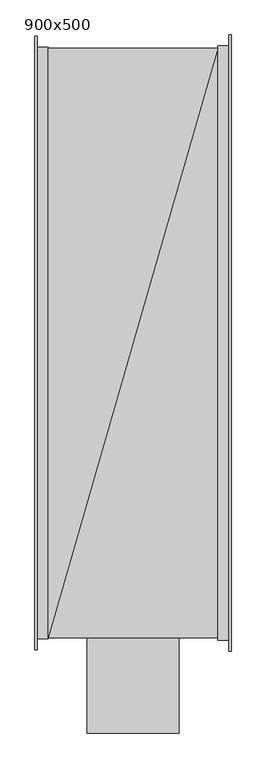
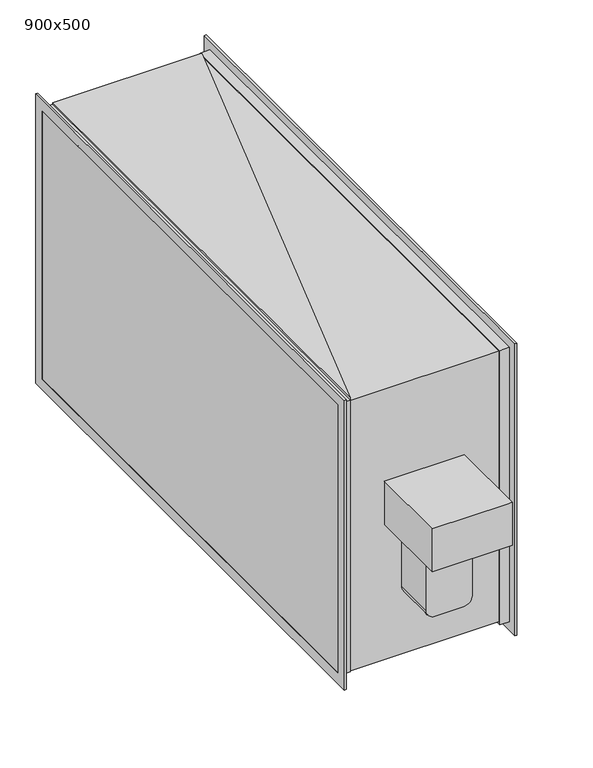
"""IFC4 building model written with IfcOpenShell, lengths in millimetres: damper geometry, Клапан ДУ прямоугольный канальный : 900x500."""

from ifc_helpers import new_model, si_unit, point, frame, frame_2d, origin, place, context, project, spatial, polyline, circle_curve, trimmed, segment, composite_curve, outline, extrude, faceted_brep, source, transform, mapped, element, save


def damper_900x500_c78eafa0(model_context):
    return source(origin(), model_context, "Body", "SolidModel", [
        extrude(outline(composite_curve([segment(trimmed(circle_curve(frame_2d((8.3674271, 0.0)), 6.0), [point((8.3674271, -6.0))], [point((8.3674271, 6.0))], False, "CARTESIAN"), True, "CONTINUOUS"), segment(trimmed(circle_curve(frame_2d((8.3674271, 0.0)), 6.0), [point((8.3674271, 6.0))], [point((8.3674271, -6.0))], False, "CARTESIAN"), True, "CONTINUOUS")], self_intersect=False)), frame((0.0, -450.0, 0.0), z_axis=(0.0, 1.0, 0.0), x_axis=(0.0, 0.0, 1.0)), (0.0, 0.0, 1.0), 100.0),
        extrude(outline(polyline([(19.330127, -485.5354596), (19.330127, -490.5354596), (15.0, -493.0354596), (10.669873, -490.5354596), (10.669873, -485.5354596), (15.0, -483.0354596), (19.330127, -485.5354596)])), frame((0.0, 0.0, -160.0), z_axis=(0.0, 0.0, 1.0), x_axis=(1.0, 0.0, 0.0)), (0.0, 0.0, 1.0), 20.0),
        extrude(outline(polyline([(-19.330127, -485.5354596), (-15.0, -483.0354596), (-10.669873, -485.5354596), (-10.669873, -490.5354596), (-15.0, -493.0354596), (-19.330127, -490.5354596), (-19.330127, -485.5354596)])), frame((0.0, 0.0, -160.0), z_axis=(0.0, 0.0, 1.0), x_axis=(1.0, 0.0, 0.0)), (0.0, 0.0, 1.0), 20.0),
        extrude(outline(polyline([(20.0, -545.0), (-20.0, -545.0), (-20.0, -525.0), (20.0, -525.0), (20.0, -545.0)])), frame((0.0, 0.0, -11.6325729), z_axis=(0.0, 0.0, 1.0), x_axis=(1.0, 0.0, 0.0)), (0.0, 0.0, 1.0), 40.0),
        extrude(outline(composite_curve([segment(polyline([(40.0, 25.0), (40.0, -25.0)]), True, "CONTINUOUS"), segment(trimmed(circle_curve(frame_2d((25.0, -25.0)), 15.0), [point((40.0, -25.0))], [point((25.0, -40.0))], False, "CARTESIAN"), True, "CONTINUOUS"), segment(polyline([(25.0, -40.0), (-125.0, -40.0)]), True, "CONTINUOUS"), segment(trimmed(circle_curve(frame_2d((-125.0, -25.0)), 15.0), [point((-125.0, -40.0))], [point((-140.0, -25.0))], False, "CARTESIAN"), True, "CONTINUOUS"), segment(polyline([(-140.0, -25.0), (-140.0, 25.0)]), True, "CONTINUOUS"), segment(trimmed(circle_curve(frame_2d((-125.0, 25.0)), 15.0), [point((-140.0, 25.0))], [point((-125.0, 40.0))], False, "CARTESIAN"), True, "CONTINUOUS"), segment(polyline([(-125.0, 40.0), (25.0, 40.0)]), True, "CONTINUOUS"), segment(trimmed(circle_curve(frame_2d((25.0, 25.0)), 15.0), [point((25.0, 40.0))], [point((40.0, 25.0))], False, "CARTESIAN"), True, "CONTINUOUS")], self_intersect=False)), frame((0.0, -525.0, 0.0), z_axis=(0.0, 1.0, 0.0), x_axis=(0.0, 0.0, 1.0)), (0.0, 0.0, 1.0), 75.0),
        faceted_brep([(-70.0, -595.0, 80.0), (-70.0, -595.0, 70.0), (-70.0, -595.0, 0.0), (70.0, -595.0, 0.0), (70.0, -595.0, 80.0), (60.0, -595.0, 80.0), (-60.0, -450.0, 0.0), (-70.0, -450.0, 0.0), (-70.0, -450.0, 80.0), (70.0, -450.0, 80.0), (70.0, -450.0, 0.0), (60.0, -450.0, 0.0), (60.0, -450.0, 70.0), (-60.0, -450.0, 70.0), (-60.0, -585.0, 0.0), (60.0, -585.0, 0.0), (-60.0, -585.0, 70.0), (60.0, -585.0, 70.0)], [[[0, 1, 2, 3, 4, 5]], [[6, 7, 8, 9, 10, 11, 12, 13]], [[7, 2, 1, 0, 8]], [[7, 6, 14, 15, 11, 10, 3, 2]], [[14, 6, 13, 16]], [[9, 8, 0, 5, 4]], [[14, 16, 17, 15]], [[3, 10, 9, 4]], [[16, 13, 12, 17]], [[11, 15, 17, 12]]]),
        faceted_brep([(150.0, 450.0, 250.0), (130.0, 450.0, 250.0), (130.0, 450.0, -250.0), (150.0, 450.0, -250.0), (146.5502892, 470.0, 270.0), (150.0, 470.0, 270.0), (150.0, 470.0, -270.0), (146.5502892, 470.0, -270.0), (130.0, 453.4497108, 253.4497108), (146.5502892, 453.4497108, 253.4497108), (146.5502892, 453.4497108, -253.4497108), (130.0, 453.4497108, -253.4497108), (130.0, -450.0, -250.0), (150.0, -450.0, -250.0), (150.0, -470.0, -270.0), (146.5502892, -470.0, -270.0), (146.5502892, -453.4497108, -253.4497108), (130.0, -453.4497108, -253.4497108), (130.0, -450.0, 250.0), (150.0, -450.0, 250.0), (150.0, -470.0, 270.0), (146.5502892, -470.0, 270.0), (146.5502892, -453.4497108, 253.4497108), (130.0, -453.4497108, 253.4497108)], [[[0, 1, 2, 3]], [[4, 5, 6, 7]], [[8, 9, 10, 11]], [[3, 2, 12, 13]], [[7, 6, 14, 15]], [[11, 10, 16, 17]], [[13, 12, 18, 19]], [[15, 14, 20, 21]], [[17, 16, 22, 23]], [[19, 18, 1, 0]], [[5, 20, 14, 6], [3, 13, 19, 0]], [[21, 20, 5, 4]], [[7, 15, 21, 4], [9, 22, 16, 10]], [[23, 22, 9, 8]], [[11, 17, 23, 8], [1, 18, 12, 2]]]),
        faceted_brep([(-150.0, -447.6138858, 247.6138858), (-130.0, -447.6138858, 247.6138858), (-130.0, -447.6138858, -247.6138858), (-150.0, -447.6138858, -247.6138858), (-146.5502892, -467.6138858, 267.6138858), (-150.0, -467.6138858, 267.6138858), (-150.0, -467.6138858, -267.6138858), (-146.5502892, -467.6138858, -267.6138858), (-130.0, -451.0635966, 251.0635966), (-146.5502892, -451.0635966, 251.0635966), (-146.5502892, -451.0635966, -251.0635966), (-130.0, -451.0635966, -251.0635966), (-130.0, 447.6138858, -247.6138858), (-150.0, 447.6138858, -247.6138858), (-150.0, 467.6138858, -267.6138858), (-146.5502892, 467.6138858, -267.6138858), (-146.5502892, 451.0635966, -251.0635966), (-130.0, 451.0635966, -251.0635966), (-130.0, 447.6138858, 247.6138858), (-150.0, 447.6138858, 247.6138858), (-150.0, 467.6138858, 267.6138858), (-146.5502892, 467.6138858, 267.6138858), (-146.5502892, 451.0635966, 251.0635966), (-130.0, 451.0635966, 251.0635966)], [[[0, 1, 2, 3]], [[4, 5, 6, 7]], [[8, 9, 10, 11]], [[3, 2, 12, 13]], [[7, 6, 14, 15]], [[11, 10, 16, 17]], [[13, 12, 18, 19]], [[15, 14, 20, 21]], [[17, 16, 22, 23]], [[19, 18, 1, 0]], [[5, 20, 14, 6], [3, 13, 19, 0]], [[21, 20, 5, 4]], [[7, 15, 21, 4], [9, 22, 16, 10]], [[23, 22, 9, 8]], [[11, 17, 23, 8], [1, 18, 12, 2]]]),
        extrude(outline(polyline([(150.0, 450.0), (150.0, -450.0), (-150.0, -450.0), (-150.0, 450.0), (150.0, 450.0)])), frame((0.0, 0.0, -250.0), z_axis=(0.0, 0.0, 1.0), x_axis=(1.0, 0.0, 0.0)), (0.0, 0.0, 1.0), 500.0),
        extrude(outline(polyline([(-130.0, 450.0), (130.0, 450.0), (-130.0, -450.0), (-130.0, 450.0)])), frame((0.0, 0.0, 250.0), z_axis=(0.0, 0.0, 1.0), x_axis=(1.0, 0.0, 0.0)), (0.0, 0.0, 1.0), 5.0),
    ])


if __name__ == "__main__":
    model = new_model("IFC4")
    model_context = context("Model", 3, world=origin())
    ifc_project = project(units=[si_unit("LENGTHUNIT", "METRE", prefix="MILLI")], contexts=[model_context])
    site = spatial("IfcSite", under=ifc_project)
    building = spatial("IfcBuilding", under=site)
    placement = place(None, origin())
    damper_900x500_shape = damper_900x500_c78eafa0(model_context)
    element("IfcDamper", 1, ObjectType="Клапан ДУ прямоугольный канальный : 900x500", at=placement, inside=building, context=model_context, shape_type="MappedRepresentation", body=[
        mapped(damper_900x500_shape, transform((0.0, 0.0, 0.0), x_axis=(1.0, 0.0, 0.0), y_axis=(0.0, 1.0, 0.0), z_axis=(0.0, 0.0, 1.0))),
    ])
    save(model, "model.ifc")
